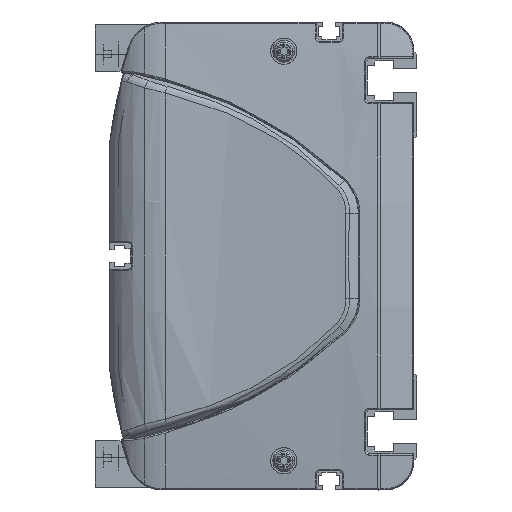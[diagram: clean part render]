
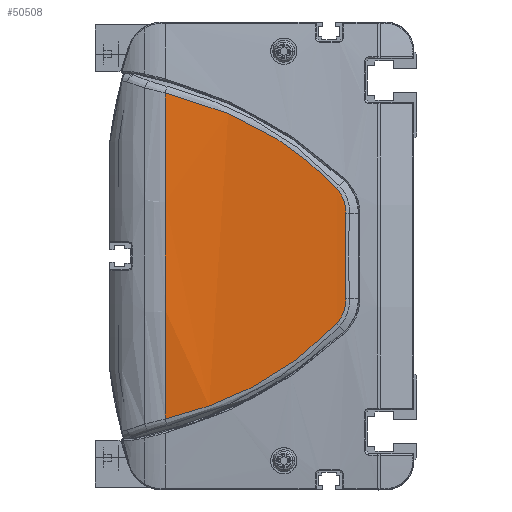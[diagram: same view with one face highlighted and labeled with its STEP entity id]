
A CAD part, left-side view. The second image highlights one B-rep face of the part: STEP entity #50508.
In plain terms, the highlighted cylindrical face has radius 600 mm (diameter 1200 mm), a partial arc.
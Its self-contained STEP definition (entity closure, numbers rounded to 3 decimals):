
#45539=CARTESIAN_POINT('',(-12.406,86.,
55.736));
#45540=CARTESIAN_POINT('',(-12.529,80.495,
54.41));
#45541=CARTESIAN_POINT('',(-12.828,69.636,
51.114));
#45542=CARTESIAN_POINT('',(-13.389,54.079,
44.179));
#45543=CARTESIAN_POINT('',(-14.01,39.709,
34.979));
#45544=CARTESIAN_POINT('',(-14.395,31.353,
27.243));
#45545=CARTESIAN_POINT('',(-14.555,27.451,
23.113));
#45547=CARTESIAN_POINT('',(-14.555,27.451,
23.113));
#45548=CARTESIAN_POINT('',(-14.641,25.336,
20.875));
#45549=CARTESIAN_POINT('',(-14.745,24.202,
17.745));
#45550=CARTESIAN_POINT('',(-14.821,24.351,
14.67));
#45552=CARTESIAN_POINT('',(-14.821,24.351,
14.67));
#45553=CARTESIAN_POINT('',(-14.9,24.51,
11.413));
#45554=CARTESIAN_POINT('',(-15.007,24.721,
4.895));
#45555=CARTESIAN_POINT('',(-15.007,24.721,
-4.895));
#45556=CARTESIAN_POINT('',(-14.9,24.51,
-11.413));
#45557=CARTESIAN_POINT('',(-14.821,24.351,
-14.67));
#45559=CARTESIAN_POINT('',(-14.821,24.351,
-14.67));
#45560=CARTESIAN_POINT('',(-14.745,24.202,
-17.745));
#45561=CARTESIAN_POINT('',(-14.641,25.337,
-20.876));
#45562=CARTESIAN_POINT('',(-14.555,27.451,
-23.113));
#45564=CARTESIAN_POINT('',(-14.555,27.451,
-23.113));
#45565=CARTESIAN_POINT('',(-14.395,31.353,
-27.243));
#45566=CARTESIAN_POINT('',(-14.01,39.709,
-34.979));
#45567=CARTESIAN_POINT('',(-13.389,54.079,
-44.179));
#45568=CARTESIAN_POINT('',(-12.828,69.636,
-51.114));
#45569=CARTESIAN_POINT('',(-12.529,80.495,
-54.41));
#45570=CARTESIAN_POINT('',(-12.406,86.,
-55.736));
#45572=CARTESIAN_POINT('',(585.,86.,0.));
#45573=DIRECTION('',(0.,1.,0.));
#45574=DIRECTION('',(-0.996,0.,-0.093));
#45575=AXIS2_PLACEMENT_3D('',#45572,#45573,#45574);
#45588=CARTESIAN_POINT('',(-12.406,86.,
55.736));
#46095=VERTEX_POINT('',#45588);
#46096=CARTESIAN_POINT('',(-12.406,86.,
-55.736));
#46097=VERTEX_POINT('',#46096);
#46149=VERTEX_POINT('',#45545);
#46150=VERTEX_POINT('',#45550);
#46151=VERTEX_POINT('',#45557);
#46152=VERTEX_POINT('',#45562);
#50490=CARTESIAN_POINT('',(585.,87.45,0.));
#50491=DIRECTION('',(0.,-1.,0.));
#50492=DIRECTION('',(0.,0.,-1.));
#50493=AXIS2_PLACEMENT_3D('',#50490,#50491,#50492);
#50494=CYLINDRICAL_SURFACE('',#50493,600.);
#50496=ORIENTED_EDGE('',*,*,#50495,.T.);
#50498=ORIENTED_EDGE('',*,*,#50497,.T.);
#50499=ORIENTED_EDGE('',*,*,#50480,.T.);
#50501=ORIENTED_EDGE('',*,*,#50500,.T.);
#50503=ORIENTED_EDGE('',*,*,#50502,.T.);
#50505=ORIENTED_EDGE('',*,*,#50504,.T.);
#50506=EDGE_LOOP('',(#50496,#50498,#50499,#50501,#50503,#50505));
#50507=FACE_OUTER_BOUND('',#50506,.F.);
#50508=ADVANCED_FACE('',(#50507),#50494,.T.);
#45546=B_SPLINE_CURVE_WITH_KNOTS('',3,(#45539,#45540,#45541,#45542,#45543,
#45544,#45545),.UNSPECIFIED.,.F.,.F.,(4,1,1,1,4),(0.,0.25,0.5,0.75,
1.),.UNSPECIFIED.);
#45551=B_SPLINE_CURVE_WITH_KNOTS('',3,(#45547,#45548,#45549,#45550),
.UNSPECIFIED.,.F.,.F.,(4,4),(0.,1.),.UNSPECIFIED.);
#45558=B_SPLINE_CURVE_WITH_KNOTS('',3,(#45552,#45553,#45554,#45555,#45556,
#45557),.UNSPECIFIED.,.F.,.F.,(4,1,1,4),(0.,0.333,
0.667,1.),.UNSPECIFIED.);
#45563=B_SPLINE_CURVE_WITH_KNOTS('',3,(#45559,#45560,#45561,#45562),
.UNSPECIFIED.,.F.,.F.,(4,4),(0.,1.),.UNSPECIFIED.);
#45571=B_SPLINE_CURVE_WITH_KNOTS('',3,(#45564,#45565,#45566,#45567,#45568,
#45569,#45570),.UNSPECIFIED.,.F.,.F.,(4,1,1,1,4),(0.,0.25,0.5,0.75,
1.),.UNSPECIFIED.);
#45576=CIRCLE('',#45575,600.);
#50480=EDGE_CURVE('',#46150,#46151,#45558,.T.);
#50495=EDGE_CURVE('',#46095,#46149,#45546,.T.);
#50497=EDGE_CURVE('',#46149,#46150,#45551,.T.);
#50500=EDGE_CURVE('',#46151,#46152,#45563,.T.);
#50502=EDGE_CURVE('',#46152,#46097,#45571,.T.);
#50504=EDGE_CURVE('',#46097,#46095,#45576,.T.);
